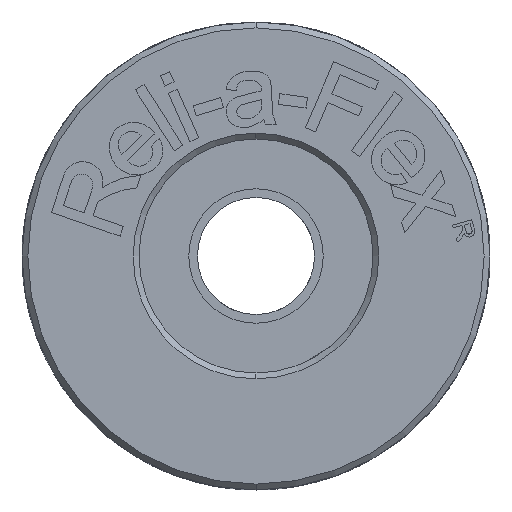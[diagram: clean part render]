
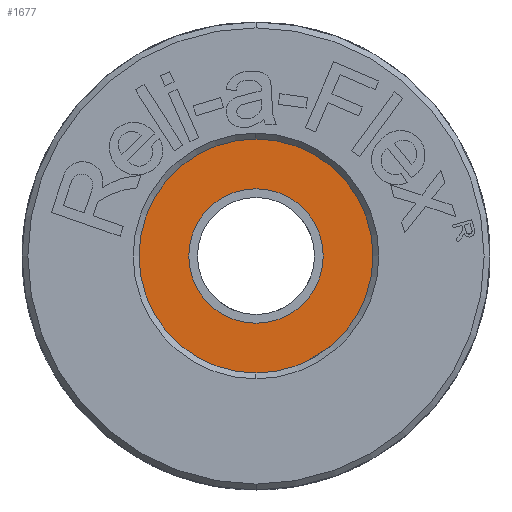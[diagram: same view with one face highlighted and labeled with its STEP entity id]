
A CAD part, front view. The second image highlights one B-rep face of the part: STEP entity #1677.
In plain terms, the highlighted planar face has unit normal (0, -1, 0).
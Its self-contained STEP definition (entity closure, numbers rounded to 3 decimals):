
#618 = CARTESIAN_POINT ( 'NONE',  ( 0., 2.8, 0. ) ) ;
#619 = DIRECTION ( 'NONE',  ( 0., 1., 0. ) ) ;
#620 = DIRECTION ( 'NONE',  ( 0., 0., 1. ) ) ;
#1122 = VERTEX_POINT ( 'NONE', #6599 ) ;
#1131 = VERTEX_POINT ( 'NONE', #6608 ) ;
#1229 = EDGE_CURVE ( 'NONE', #6231, #6232, #1845, .T. ) ;
#1292 = EDGE_CURVE ( 'NONE', #6232, #6231, #4640, .T. ) ;
#1677 = ADVANCED_FACE ( 'NONE', ( #3339, #3340 ), #3341, .F. ) ;
#1714 = EDGE_CURVE ( 'NONE', #1131, #1122, #2971, .T. ) ;
#1842 = AXIS2_PLACEMENT_3D ( 'NONE', #618, #619, #620 ) ;
#1845 = CIRCLE ( 'NONE', #1842, 2. ) ;
#2933 = AXIS2_PLACEMENT_3D ( 'NONE', #3336, #3343, #3344 ) ;
#2971 = CIRCLE ( 'NONE', #2973, 1.15 ) ;
#2973 = AXIS2_PLACEMENT_3D ( 'NONE', #3526, #3527, #3528 ) ;
#3084 = CIRCLE ( 'NONE', #3086, 1.15 ) ;
#3086 = AXIS2_PLACEMENT_3D ( 'NONE', #4178, #4179, #4180 ) ;
#3336 = CARTESIAN_POINT ( 'NONE',  ( 0., 2.8, 0. ) ) ;
#3339 = FACE_BOUND ( 'NONE', #6186, .T. ) ;
#3340 = FACE_OUTER_BOUND ( 'NONE', #6189, .T. ) ;
#3341 = PLANE ( 'NONE',  #2933 ) ;
#3343 = DIRECTION ( 'NONE',  ( 0., 1., 0. ) ) ;
#3344 = DIRECTION ( 'NONE',  ( 0., 0., 1. ) ) ;
#3526 = CARTESIAN_POINT ( 'NONE',  ( 0., 2.8, 0. ) ) ;
#3527 = DIRECTION ( 'NONE',  ( 0., 1., 0. ) ) ;
#3528 = DIRECTION ( 'NONE',  ( 0., 0., 1. ) ) ;
#4078 = CARTESIAN_POINT ( 'NONE',  ( 0., 2.8, 2. ) ) ;
#4079 = CARTESIAN_POINT ( 'NONE',  ( 0., 2.8, -2. ) ) ;
#4178 = CARTESIAN_POINT ( 'NONE',  ( 0., 2.8, 0. ) ) ;
#4179 = DIRECTION ( 'NONE',  ( 0., 1., 0. ) ) ;
#4180 = DIRECTION ( 'NONE',  ( 0., 0., 1. ) ) ;
#4640 = CIRCLE ( 'NONE', #4644, 2. ) ;
#4644 = AXIS2_PLACEMENT_3D ( 'NONE', #5403, #5404, #5405 ) ;
#5403 = CARTESIAN_POINT ( 'NONE',  ( 0., 2.8, 0. ) ) ;
#5404 = DIRECTION ( 'NONE',  ( 0., 1., 0. ) ) ;
#5405 = DIRECTION ( 'NONE',  ( 0., 0., 1. ) ) ;
#6186 = EDGE_LOOP ( 'NONE', ( #6419, #6420 ) ) ;
#6189 = EDGE_LOOP ( 'NONE', ( #6421, #6422 ) ) ;
#6231 = VERTEX_POINT ( 'NONE', #4078 ) ;
#6232 = VERTEX_POINT ( 'NONE', #4079 ) ;
#6419 = ORIENTED_EDGE ( 'NONE', *, *, #6862, .T. ) ;
#6420 = ORIENTED_EDGE ( 'NONE', *, *, #1714, .T. ) ;
#6421 = ORIENTED_EDGE ( 'NONE', *, *, #1229, .F. ) ;
#6422 = ORIENTED_EDGE ( 'NONE', *, *, #1292, .F. ) ;
#6599 = CARTESIAN_POINT ( 'NONE',  ( 0., 2.8, 1.15 ) ) ;
#6608 = CARTESIAN_POINT ( 'NONE',  ( 0., 2.8, -1.15 ) ) ;
#6862 = EDGE_CURVE ( 'NONE', #1122, #1131, #3084, .T. ) ;
